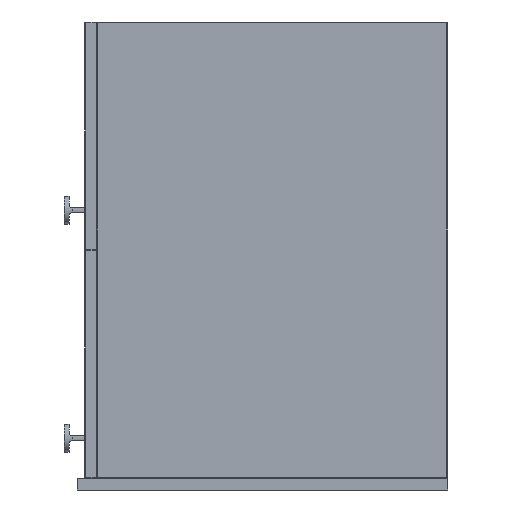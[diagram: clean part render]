
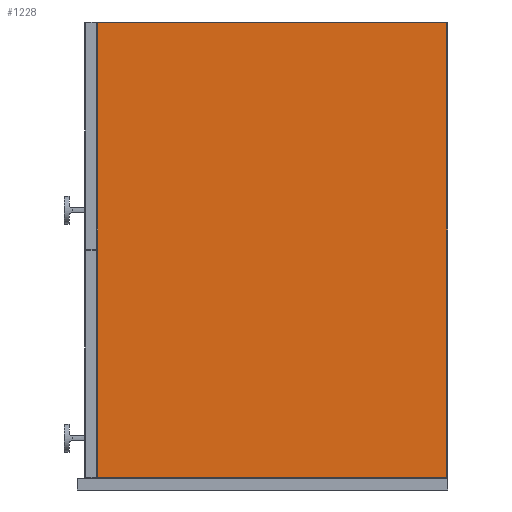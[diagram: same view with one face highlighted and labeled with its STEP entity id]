
A CAD part, left-side view. The second image highlights one B-rep face of the part: STEP entity #1228.
In plain terms, the highlighted planar face has unit normal (-1, 0, 0).
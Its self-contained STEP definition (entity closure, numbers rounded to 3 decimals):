
#26 = EDGE_CURVE ( 'NONE', #1568, #1304, #1391, .T. ) ;
#144 = CARTESIAN_POINT ( 'NONE',  ( -700., 439., 286. ) ) ;
#509 = VECTOR ( 'NONE', #1495, 1000. ) ;
#543 = CARTESIAN_POINT ( 'NONE',  ( -700., 440., -285. ) ) ;
#578 = DIRECTION ( 'NONE',  ( 0., -1., 0. ) ) ;
#717 = LINE ( 'NONE', #1629, #509 ) ;
#802 = CARTESIAN_POINT ( 'NONE',  ( -700., 439., -285. ) ) ;
#837 = CARTESIAN_POINT ( 'NONE',  ( -700., 440., 286. ) ) ;
#1045 = ORIENTED_EDGE ( 'NONE', *, *, #1480, .T. ) ;
#1094 = CARTESIAN_POINT ( 'NONE',  ( -700., 1., -285. ) ) ;
#1117 = ORIENTED_EDGE ( 'NONE', *, *, #1465, .T. ) ;
#1145 = VECTOR ( 'NONE', #2171, 1000. ) ;
#1151 = EDGE_LOOP ( 'NONE', ( #1117, #2416, #2229, #1045 ) ) ;
#1217 = AXIS2_PLACEMENT_3D ( 'NONE', #837, #1750, #2374 ) ;
#1228 = ADVANCED_FACE ( 'NONE', ( #1609 ), #2361, .F. ) ;
#1295 = VECTOR ( 'NONE', #578, 1000. ) ;
#1304 = VERTEX_POINT ( 'NONE', #2403 ) ;
#1391 = LINE ( 'NONE', #1401, #1145 ) ;
#1401 = CARTESIAN_POINT ( 'NONE',  ( -700., 1., 286. ) ) ;
#1465 = EDGE_CURVE ( 'NONE', #2105, #2293, #1868, .T. ) ;
#1480 = EDGE_CURVE ( 'NONE', #1304, #2105, #717, .T. ) ;
#1495 = DIRECTION ( 'NONE',  ( 0., 1., 0. ) ) ;
#1507 = LINE ( 'NONE', #543, #1295 ) ;
#1528 = VECTOR ( 'NONE', #2471, 1000. ) ;
#1568 = VERTEX_POINT ( 'NONE', #1094 ) ;
#1609 = FACE_OUTER_BOUND ( 'NONE', #1151, .T. ) ;
#1629 = CARTESIAN_POINT ( 'NONE',  ( -700., 440., 285. ) ) ;
#1750 = DIRECTION ( 'NONE',  ( 1., 0., 0. ) ) ;
#1805 = CARTESIAN_POINT ( 'NONE',  ( -700., 439., 285. ) ) ;
#1868 = LINE ( 'NONE', #144, #1528 ) ;
#2105 = VERTEX_POINT ( 'NONE', #1805 ) ;
#2171 = DIRECTION ( 'NONE',  ( 0., 0., 1. ) ) ;
#2193 = EDGE_CURVE ( 'NONE', #2293, #1568, #1507, .T. ) ;
#2229 = ORIENTED_EDGE ( 'NONE', *, *, #26, .T. ) ;
#2293 = VERTEX_POINT ( 'NONE', #802 ) ;
#2361 = PLANE ( 'NONE',  #1217 ) ;
#2374 = DIRECTION ( 'NONE',  ( 0., 0., -1. ) ) ;
#2403 = CARTESIAN_POINT ( 'NONE',  ( -700., 1., 285. ) ) ;
#2416 = ORIENTED_EDGE ( 'NONE', *, *, #2193, .T. ) ;
#2471 = DIRECTION ( 'NONE',  ( 0., 0., -1. ) ) ;
